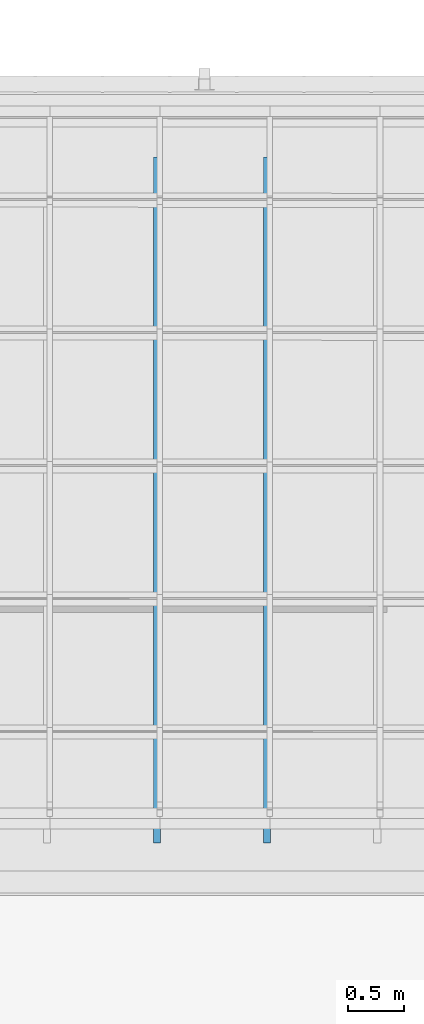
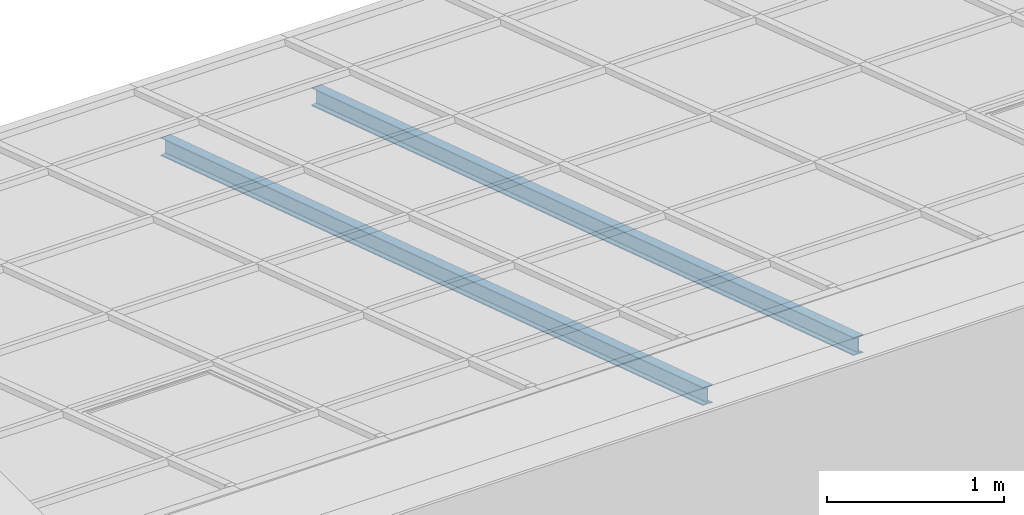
# One storey, part 3 of 47: 2 beams.
"""IFC2X3 building model written with IfcOpenShell, lengths in millimetres."""

from ifc_helpers import new_model, entity, si_unit, converted_unit, derived_unit, money_unit, point, direction, frame, frame_2d, origin_with_axes, place, context, subcontext, project, spatial, polyline, circle_curve, parameter, trimmed, segment, composite_curve, outline, extrude, clip, halfspace, material, type_object, element, save


model = new_model("IFC2X3")

# Units and contexts
model_context = context("Model", 3, precision=1e-05, world=origin_with_axes(), true_north=direction((0.0, 1.0)))
body_context = subcontext(model_context, "Body", "Model", "MODEL_VIEW")
ifc_project = project(units=[si_unit("LENGTHUNIT", "METRE", prefix="MILLI"), si_unit("AREAUNIT", "SQUARE_METRE"), si_unit("VOLUMEUNIT", "CUBIC_METRE"), converted_unit("PLANEANGLEUNIT", "DEGREE", entity("IfcPlaneAngleMeasure", 0.0174532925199), si_unit("PLANEANGLEUNIT", "RADIAN"), dimensions=[0, 0, 0, 0, 0, 0, 0]), si_unit("SOLIDANGLEUNIT", "STERADIAN"), money_unit("EUR"), converted_unit("TIMEUNIT", "Year", entity("IfcTimeMeasure", 31556926.0), si_unit("TIMEUNIT", "SECOND"), dimensions=[0, 0, 1, 0, 0, 0, 0]), si_unit("MASSUNIT", "GRAM", prefix="KILO"), si_unit("THERMODYNAMICTEMPERATUREUNIT", "DEGREE_CELSIUS"), si_unit("LUMINOUSINTENSITYUNIT", "LUMEN"), si_unit("ENERGYUNIT", "JOULE", prefix="MEGA"), derived_unit("THERMALCONDUCTANCEUNIT", [(si_unit("POWERUNIT", "WATT"), 1), (si_unit("LENGTHUNIT", "METRE"), -1), (si_unit("THERMODYNAMICTEMPERATUREUNIT", "KELVIN"), -1)]), derived_unit("SPECIFICHEATCAPACITYUNIT", [(si_unit("ENERGYUNIT", "JOULE"), 1), (si_unit("MASSUNIT", "GRAM", prefix="KILO"), -1), (si_unit("THERMODYNAMICTEMPERATUREUNIT", "KELVIN"), -1)]), derived_unit("MASSDENSITYUNIT", [(si_unit("MASSUNIT", "GRAM", prefix="KILO"), 1), (si_unit("VOLUMEUNIT", "CUBIC_METRE"), -1)])], contexts=[model_context])

# Site, building, storey
site_placement = place(None, origin_with_axes())
site = spatial("IfcSite", under=ifc_project, at=site_placement, Name="Site", CompositionType="ELEMENT")
building_placement = place(site_placement, origin_with_axes())
building = spatial("IfcBuilding", under=site, at=building_placement, Name="Building", CompositionType="ELEMENT")
storey_placement = place(building_placement, frame((0.0, 0.0, 6000.0), z_axis=(0.0, 0.0, 1.0), x_axis=(1.0, 0.0, 0.0)))
storey = spatial("IfcBuildingStorey", under=building, at=storey_placement, Name="KATUSEPLAAN", CompositionType="ELEMENT", Elevation=6000.0)

# Beams
ifc_material = material(Name="Teras (1)")
beam_type = type_object("IfcBeamType", Name="IPE 120", PredefinedType="NOTDEFINED")
beam_1_placement = place(storey_placement, frame((68176.0817676, 46947.8063411, 699.678842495), z_axis=(0.0, 0.0, 1.0), x_axis=(-1.0, 0.0, 0.0)))
element("IfcBeam", 1, at=beam_1_placement, inside=storey, type_object=beam_type, material=ifc_material, Name="I Joist - Steel", ObjectType="I Joist - Steel 64 x 120", context=body_context, shape_type="Clipping", body=[
    clip(clip(extrude(outline(composite_curve([segment(polyline([(32.0018479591, -120.000212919), (32.0018479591, -117.505222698)]), True, "CONTINUOUS"), segment(trimmed(circle_curve(frame_2d((27.3321376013, -117.498683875), x_axis=(0.999999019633, -0.00140026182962)), 4.66971493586), [point((32.0018479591, -117.505222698)), parameter(0.0)], [point((31.7461003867, -115.974488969)), parameter(19.1306436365)], True, "CARTESIAN"), True, "CONTINUOUS"), segment(trimmed(circle_curve(frame_2d((27.8471066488, -117.309508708), x_axis=(0.94607823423, 0.323938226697)), 4.12121703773), [point((31.7461003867, -115.974488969)), parameter(0.0)], [point((31.017792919, -114.676795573)), parameter(20.802576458)], True, "CARTESIAN"), True, "CONTINUOUS"), segment(trimmed(circle_curve(frame_2d((28.4090653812, -116.837495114), x_axis=(0.770140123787, 0.637874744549)), 3.38734141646), [point((31.017792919, -114.676795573)), parameter(0.0)], [point((29.9278037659, -113.809704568)), parameter(23.7281511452)], True, "CARTESIAN"), True, "CONTINUOUS"), segment(trimmed(circle_curve(frame_2d((28.6333599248, -116.404648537), x_axis=(0.446378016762, 0.89484449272)), 2.89988259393), [point((29.9278037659, -113.809704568)), parameter(0.0)], [point((29.1110817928, -113.544386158)), parameter(17.0295027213)], True, "CARTESIAN"), True, "CONTINUOUS"), segment(polyline([(29.1110817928, -113.544386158), (5.24260801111, -109.566039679)]), True, "CONTINUOUS"), segment(trimmed(circle_curve(frame_2d((5.72032987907, -106.7057773), x_axis=(-0.446378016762, -0.89484449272)), 2.89988259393), [point((5.24260801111, -109.566039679)), parameter(17.0295027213)], [point((4.42588603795, -109.300721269)), parameter(0.0)], False, "CARTESIAN"), True, "CONTINUOUS"), segment(trimmed(circle_curve(frame_2d((5.94462442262, -106.272930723), x_axis=(-0.770140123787, -0.637874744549)), 3.38734141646), [point((4.42588603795, -109.300721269)), parameter(23.7281511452)], [point((3.33589688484, -108.433630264)), parameter(0.0)], False, "CARTESIAN"), True, "CONTINUOUS"), segment(trimmed(circle_curve(frame_2d((6.5065831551, -105.800917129), x_axis=(-0.94607823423, -0.323938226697)), 4.12121703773), [point((3.33589688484, -108.433630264)), parameter(20.802576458)], [point((2.60758941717, -107.135936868)), parameter(0.0)], False, "CARTESIAN"), True, "CONTINUOUS"), segment(trimmed(circle_curve(frame_2d((7.02155220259, -105.611741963), x_axis=(-0.999999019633, 0.00140026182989)), 4.66971493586), [point((2.60758941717, -107.135936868)), parameter(19.1306436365)], [point((2.35184184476, -105.605203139)), parameter(0.0)], False, "CARTESIAN"), True, "CONTINUOUS"), segment(polyline([(2.35184184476, -105.605203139), (2.35184184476, -14.3950097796)]), True, "CONTINUOUS"), segment(trimmed(circle_curve(frame_2d((7.02155220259, -14.3884709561), x_axis=(-0.945231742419, 0.326399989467)), 4.66971493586), [point((2.35184184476, -14.3950097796)), parameter(19.1306436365)], [point((2.60758941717, -12.8642760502)), parameter(0.0)], False, "CARTESIAN"), True, "CONTINUOUS"), segment(trimmed(circle_curve(frame_2d((6.5065831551, -14.1992957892), x_axis=(-0.769356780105, 0.638819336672)), 4.12121703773), [point((2.60758941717, -12.8642760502)), parameter(20.802576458)], [point((3.33589688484, -11.5665826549)), parameter(0.0)], False, "CARTESIAN"), True, "CONTINUOUS"), segment(trimmed(circle_curve(frame_2d((5.94462442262, -13.7272821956), x_axis=(-0.44835704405, 0.893854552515)), 3.38734141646), [point((3.33589688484, -11.5665826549)), parameter(23.7281511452)], [point((4.42588603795, -10.6994916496)), parameter(0.0)], False, "CARTESIAN"), True, "CONTINUOUS"), segment(trimmed(circle_curve(frame_2d((5.72032987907, -13.2944356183), x_axis=(-0.164738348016, 0.986337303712)), 2.89988259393), [point((4.42588603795, -10.6994916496)), parameter(17.0295027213)], [point((5.24260801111, -10.4341732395)), parameter(0.0)], False, "CARTESIAN"), True, "CONTINUOUS"), segment(polyline([(5.24260801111, -10.4341732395), (29.1110817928, -6.45582676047)]), True, "CONTINUOUS"), segment(trimmed(circle_curve(frame_2d((28.6333599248, -3.59556438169), x_axis=(0.164738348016, -0.986337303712)), 2.89988259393), [point((29.1110817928, -6.45582676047)), parameter(0.0)], [point((29.9278037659, -6.19050835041)), parameter(17.0295027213)], True, "CARTESIAN"), True, "CONTINUOUS"), segment(trimmed(circle_curve(frame_2d((28.4090653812, -3.16271780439), x_axis=(0.44835704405, -0.893854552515)), 3.38734141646), [point((29.9278037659, -6.19050835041)), parameter(0.0)], [point((31.017792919, -5.32341734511)), parameter(23.7281511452)], True, "CARTESIAN"), True, "CONTINUOUS"), segment(trimmed(circle_curve(frame_2d((27.8471066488, -2.69070421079), x_axis=(0.769356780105, -0.638819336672)), 4.12121703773), [point((31.017792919, -5.32341734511)), parameter(0.0)], [point((31.7461003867, -4.02572394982)), parameter(20.802576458)], True, "CARTESIAN"), True, "CONTINUOUS"), segment(trimmed(circle_curve(frame_2d((27.3321376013, -2.50152904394), x_axis=(0.945231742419, -0.326399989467)), 4.66971493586), [point((31.7461003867, -4.02572394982)), parameter(0.0)], [point((32.0018479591, -2.49499022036)), parameter(19.1306436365)], True, "CARTESIAN"), True, "CONTINUOUS"), segment(polyline([(32.0018479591, -2.49499022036), (32.0018479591, 0.0), (-32.0018479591, 0.0), (-32.0018479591, -2.49499022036)]), True, "CONTINUOUS"), segment(trimmed(circle_curve(frame_2d((-27.3321376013, -2.50152904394), x_axis=(-0.999999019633, 0.00140026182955)), 4.66971493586), [point((-32.0018479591, -2.49499022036)), parameter(0.0)], [point((-31.7461003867, -4.02572394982)), parameter(19.1306436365)], True, "CARTESIAN"), True, "CONTINUOUS"), segment(trimmed(circle_curve(frame_2d((-27.8471066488, -2.69070421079), x_axis=(-0.94607823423, -0.323938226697)), 4.12121703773), [point((-31.7461003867, -4.02572394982)), parameter(0.0)], [point((-31.017792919, -5.32341734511)), parameter(20.802576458)], True, "CARTESIAN"), True, "CONTINUOUS"), segment(trimmed(circle_curve(frame_2d((-28.4090653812, -3.16271780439), x_axis=(-0.770140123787, -0.637874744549)), 3.38734141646), [point((-31.017792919, -5.32341734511)), parameter(0.0)], [point((-29.9278037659, -6.19050835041)), parameter(23.7281511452)], True, "CARTESIAN"), True, "CONTINUOUS"), segment(trimmed(circle_curve(frame_2d((-28.6333599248, -3.59556438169), x_axis=(-0.446378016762, -0.89484449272)), 2.89988259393), [point((-29.9278037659, -6.19050835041)), parameter(0.0)], [point((-29.1110817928, -6.45582676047)), parameter(17.0295027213)], True, "CARTESIAN"), True, "CONTINUOUS"), segment(polyline([(-29.1110817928, -6.45582676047), (-5.24260801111, -10.4341732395)]), True, "CONTINUOUS"), segment(trimmed(circle_curve(frame_2d((-5.72032987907, -13.2944356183), x_axis=(0.446378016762, 0.89484449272)), 2.89988259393), [point((-5.24260801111, -10.4341732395)), parameter(17.0295027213)], [point((-4.42588603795, -10.6994916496)), parameter(0.0)], False, "CARTESIAN"), True, "CONTINUOUS"), segment(trimmed(circle_curve(frame_2d((-5.94462442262, -13.7272821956), x_axis=(0.770140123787, 0.637874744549)), 3.38734141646), [point((-4.42588603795, -10.6994916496)), parameter(23.7281511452)], [point((-3.33589688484, -11.5665826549)), parameter(0.0)], False, "CARTESIAN"), True, "CONTINUOUS"), segment(trimmed(circle_curve(frame_2d((-6.5065831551, -14.1992957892), x_axis=(0.94607823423, 0.323938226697)), 4.12121703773), [point((-3.33589688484, -11.5665826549)), parameter(20.802576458)], [point((-2.60758941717, -12.8642760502)), parameter(0.0)], False, "CARTESIAN"), True, "CONTINUOUS"), segment(trimmed(circle_curve(frame_2d((-7.02155220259, -14.3884709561), x_axis=(0.999999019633, -0.00140026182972)), 4.66971493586), [point((-2.60758941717, -12.8642760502)), parameter(19.1306436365)], [point((-2.35184184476, -14.3950097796)), parameter(0.0)], False, "CARTESIAN"), True, "CONTINUOUS"), segment(polyline([(-2.35184184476, -14.3950097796), (-2.35184184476, -105.605203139)]), True, "CONTINUOUS"), segment(trimmed(circle_curve(frame_2d((-7.02155220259, -105.611741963), x_axis=(0.945231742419, -0.326399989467)), 4.66971493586), [point((-2.35184184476, -105.605203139)), parameter(19.1306436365)], [point((-2.60758941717, -107.135936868)), parameter(0.0)], False, "CARTESIAN"), True, "CONTINUOUS"), segment(trimmed(circle_curve(frame_2d((-6.5065831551, -105.800917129), x_axis=(0.769356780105, -0.638819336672)), 4.12121703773), [point((-2.60758941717, -107.135936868)), parameter(20.802576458)], [point((-3.33589688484, -108.433630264)), parameter(0.0)], False, "CARTESIAN"), True, "CONTINUOUS"), segment(trimmed(circle_curve(frame_2d((-5.94462442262, -106.272930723), x_axis=(0.44835704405, -0.893854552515)), 3.38734141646), [point((-3.33589688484, -108.433630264)), parameter(23.7281511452)], [point((-4.42588603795, -109.300721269)), parameter(0.0)], False, "CARTESIAN"), True, "CONTINUOUS"), segment(trimmed(circle_curve(frame_2d((-5.72032987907, -106.7057773), x_axis=(0.164738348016, -0.986337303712)), 2.89988259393), [point((-4.42588603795, -109.300721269)), parameter(17.0295027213)], [point((-5.24260801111, -109.566039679)), parameter(0.0)], False, "CARTESIAN"), True, "CONTINUOUS"), segment(polyline([(-5.24260801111, -109.566039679), (-29.1110817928, -113.544386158)]), True, "CONTINUOUS"), segment(trimmed(circle_curve(frame_2d((-28.6333599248, -116.404648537), x_axis=(-0.164738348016, 0.986337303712)), 2.89988259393), [point((-29.1110817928, -113.544386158)), parameter(0.0)], [point((-29.9278037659, -113.809704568)), parameter(17.0295027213)], True, "CARTESIAN"), True, "CONTINUOUS"), segment(trimmed(circle_curve(frame_2d((-28.4090653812, -116.837495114), x_axis=(-0.44835704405, 0.893854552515)), 3.38734141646), [point((-29.9278037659, -113.809704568)), parameter(0.0)], [point((-31.017792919, -114.676795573)), parameter(23.7281511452)], True, "CARTESIAN"), True, "CONTINUOUS"), segment(trimmed(circle_curve(frame_2d((-27.8471066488, -117.309508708), x_axis=(-0.769356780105, 0.638819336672)), 4.12121703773), [point((-31.017792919, -114.676795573)), parameter(0.0)], [point((-31.7461003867, -115.974488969)), parameter(20.802576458)], True, "CARTESIAN"), True, "CONTINUOUS"), segment(trimmed(circle_curve(frame_2d((-27.3321376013, -117.498683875), x_axis=(-0.945231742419, 0.326399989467)), 4.66971493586), [point((-31.7461003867, -115.974488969)), parameter(0.0)], [point((-32.0018479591, -117.505222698)), parameter(19.1306436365)], True, "CARTESIAN"), True, "CONTINUOUS"), segment(polyline([(-32.0018479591, -117.505222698), (-32.0018479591, -120.000212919), (32.0018479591, -120.000212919)]), True, "CONTINUOUS")], self_intersect=False)), frame((0.0, 6177.44201598, 2007.17258333), z_axis=(0.0, 0.951056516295, 0.309016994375), x_axis=(-1.0, 0.0, 0.0)), (0.0, 0.0, -1.0), 6550.487721), halfspace(frame((0.0, 6125.0, 0.0), z_axis=(0.0, -1.0, 0.0), x_axis=(0.0, 0.0, -1.0)), True)), halfspace(frame((0.0, 0.0, 0.0), z_axis=(0.0, 1.0, 0.0), x_axis=(0.0, 0.0, 1.0)), True)),
])
beam_2_placement = place(storey_placement, frame((69159.0817676, 46947.8063411, 699.678842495), z_axis=(0.0, 0.0, 1.0), x_axis=(-1.0, 0.0, 0.0)))
element("IfcBeam", 2, at=beam_2_placement, inside=storey, type_object=beam_type, material=ifc_material, Name="I Joist - Steel", ObjectType="I Joist - Steel 64 x 120", context=body_context, shape_type="Clipping", body=[
    clip(clip(extrude(outline(composite_curve([segment(polyline([(32.0018479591, -120.000212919), (32.0018479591, -117.505222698)]), True, "CONTINUOUS"), segment(trimmed(circle_curve(frame_2d((27.3321376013, -117.498683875), x_axis=(0.999999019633, -0.00140026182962)), 4.66971493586), [point((32.0018479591, -117.505222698)), parameter(0.0)], [point((31.7461003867, -115.974488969)), parameter(19.1306436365)], True, "CARTESIAN"), True, "CONTINUOUS"), segment(trimmed(circle_curve(frame_2d((27.8471066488, -117.309508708), x_axis=(0.94607823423, 0.323938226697)), 4.12121703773), [point((31.7461003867, -115.974488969)), parameter(0.0)], [point((31.017792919, -114.676795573)), parameter(20.802576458)], True, "CARTESIAN"), True, "CONTINUOUS"), segment(trimmed(circle_curve(frame_2d((28.4090653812, -116.837495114), x_axis=(0.770140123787, 0.637874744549)), 3.38734141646), [point((31.017792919, -114.676795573)), parameter(0.0)], [point((29.9278037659, -113.809704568)), parameter(23.7281511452)], True, "CARTESIAN"), True, "CONTINUOUS"), segment(trimmed(circle_curve(frame_2d((28.6333599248, -116.404648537), x_axis=(0.446378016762, 0.89484449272)), 2.89988259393), [point((29.9278037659, -113.809704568)), parameter(0.0)], [point((29.1110817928, -113.544386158)), parameter(17.0295027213)], True, "CARTESIAN"), True, "CONTINUOUS"), segment(polyline([(29.1110817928, -113.544386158), (5.24260801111, -109.566039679)]), True, "CONTINUOUS"), segment(trimmed(circle_curve(frame_2d((5.72032987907, -106.7057773), x_axis=(-0.446378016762, -0.89484449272)), 2.89988259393), [point((5.24260801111, -109.566039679)), parameter(17.0295027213)], [point((4.42588603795, -109.300721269)), parameter(0.0)], False, "CARTESIAN"), True, "CONTINUOUS"), segment(trimmed(circle_curve(frame_2d((5.94462442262, -106.272930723), x_axis=(-0.770140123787, -0.637874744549)), 3.38734141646), [point((4.42588603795, -109.300721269)), parameter(23.7281511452)], [point((3.33589688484, -108.433630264)), parameter(0.0)], False, "CARTESIAN"), True, "CONTINUOUS"), segment(trimmed(circle_curve(frame_2d((6.5065831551, -105.800917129), x_axis=(-0.94607823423, -0.323938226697)), 4.12121703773), [point((3.33589688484, -108.433630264)), parameter(20.802576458)], [point((2.60758941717, -107.135936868)), parameter(0.0)], False, "CARTESIAN"), True, "CONTINUOUS"), segment(trimmed(circle_curve(frame_2d((7.02155220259, -105.611741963), x_axis=(-0.999999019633, 0.00140026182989)), 4.66971493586), [point((2.60758941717, -107.135936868)), parameter(19.1306436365)], [point((2.35184184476, -105.605203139)), parameter(0.0)], False, "CARTESIAN"), True, "CONTINUOUS"), segment(polyline([(2.35184184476, -105.605203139), (2.35184184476, -14.3950097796)]), True, "CONTINUOUS"), segment(trimmed(circle_curve(frame_2d((7.02155220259, -14.3884709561), x_axis=(-0.945231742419, 0.326399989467)), 4.66971493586), [point((2.35184184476, -14.3950097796)), parameter(19.1306436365)], [point((2.60758941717, -12.8642760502)), parameter(0.0)], False, "CARTESIAN"), True, "CONTINUOUS"), segment(trimmed(circle_curve(frame_2d((6.5065831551, -14.1992957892), x_axis=(-0.769356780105, 0.638819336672)), 4.12121703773), [point((2.60758941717, -12.8642760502)), parameter(20.802576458)], [point((3.33589688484, -11.5665826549)), parameter(0.0)], False, "CARTESIAN"), True, "CONTINUOUS"), segment(trimmed(circle_curve(frame_2d((5.94462442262, -13.7272821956), x_axis=(-0.44835704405, 0.893854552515)), 3.38734141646), [point((3.33589688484, -11.5665826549)), parameter(23.7281511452)], [point((4.42588603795, -10.6994916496)), parameter(0.0)], False, "CARTESIAN"), True, "CONTINUOUS"), segment(trimmed(circle_curve(frame_2d((5.72032987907, -13.2944356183), x_axis=(-0.164738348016, 0.986337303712)), 2.89988259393), [point((4.42588603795, -10.6994916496)), parameter(17.0295027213)], [point((5.24260801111, -10.4341732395)), parameter(0.0)], False, "CARTESIAN"), True, "CONTINUOUS"), segment(polyline([(5.24260801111, -10.4341732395), (29.1110817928, -6.45582676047)]), True, "CONTINUOUS"), segment(trimmed(circle_curve(frame_2d((28.6333599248, -3.59556438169), x_axis=(0.164738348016, -0.986337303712)), 2.89988259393), [point((29.1110817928, -6.45582676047)), parameter(0.0)], [point((29.9278037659, -6.19050835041)), parameter(17.0295027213)], True, "CARTESIAN"), True, "CONTINUOUS"), segment(trimmed(circle_curve(frame_2d((28.4090653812, -3.16271780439), x_axis=(0.44835704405, -0.893854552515)), 3.38734141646), [point((29.9278037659, -6.19050835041)), parameter(0.0)], [point((31.017792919, -5.32341734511)), parameter(23.7281511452)], True, "CARTESIAN"), True, "CONTINUOUS"), segment(trimmed(circle_curve(frame_2d((27.8471066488, -2.69070421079), x_axis=(0.769356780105, -0.638819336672)), 4.12121703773), [point((31.017792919, -5.32341734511)), parameter(0.0)], [point((31.7461003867, -4.02572394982)), parameter(20.802576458)], True, "CARTESIAN"), True, "CONTINUOUS"), segment(trimmed(circle_curve(frame_2d((27.3321376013, -2.50152904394), x_axis=(0.945231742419, -0.326399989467)), 4.66971493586), [point((31.7461003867, -4.02572394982)), parameter(0.0)], [point((32.0018479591, -2.49499022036)), parameter(19.1306436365)], True, "CARTESIAN"), True, "CONTINUOUS"), segment(polyline([(32.0018479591, -2.49499022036), (32.0018479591, 0.0), (-32.0018479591, 0.0), (-32.0018479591, -2.49499022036)]), True, "CONTINUOUS"), segment(trimmed(circle_curve(frame_2d((-27.3321376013, -2.50152904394), x_axis=(-0.999999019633, 0.00140026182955)), 4.66971493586), [point((-32.0018479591, -2.49499022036)), parameter(0.0)], [point((-31.7461003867, -4.02572394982)), parameter(19.1306436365)], True, "CARTESIAN"), True, "CONTINUOUS"), segment(trimmed(circle_curve(frame_2d((-27.8471066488, -2.69070421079), x_axis=(-0.94607823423, -0.323938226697)), 4.12121703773), [point((-31.7461003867, -4.02572394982)), parameter(0.0)], [point((-31.017792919, -5.32341734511)), parameter(20.802576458)], True, "CARTESIAN"), True, "CONTINUOUS"), segment(trimmed(circle_curve(frame_2d((-28.4090653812, -3.16271780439), x_axis=(-0.770140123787, -0.637874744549)), 3.38734141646), [point((-31.017792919, -5.32341734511)), parameter(0.0)], [point((-29.9278037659, -6.19050835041)), parameter(23.7281511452)], True, "CARTESIAN"), True, "CONTINUOUS"), segment(trimmed(circle_curve(frame_2d((-28.6333599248, -3.59556438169), x_axis=(-0.446378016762, -0.89484449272)), 2.89988259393), [point((-29.9278037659, -6.19050835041)), parameter(0.0)], [point((-29.1110817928, -6.45582676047)), parameter(17.0295027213)], True, "CARTESIAN"), True, "CONTINUOUS"), segment(polyline([(-29.1110817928, -6.45582676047), (-5.24260801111, -10.4341732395)]), True, "CONTINUOUS"), segment(trimmed(circle_curve(frame_2d((-5.72032987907, -13.2944356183), x_axis=(0.446378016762, 0.89484449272)), 2.89988259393), [point((-5.24260801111, -10.4341732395)), parameter(17.0295027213)], [point((-4.42588603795, -10.6994916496)), parameter(0.0)], False, "CARTESIAN"), True, "CONTINUOUS"), segment(trimmed(circle_curve(frame_2d((-5.94462442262, -13.7272821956), x_axis=(0.770140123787, 0.637874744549)), 3.38734141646), [point((-4.42588603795, -10.6994916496)), parameter(23.7281511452)], [point((-3.33589688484, -11.5665826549)), parameter(0.0)], False, "CARTESIAN"), True, "CONTINUOUS"), segment(trimmed(circle_curve(frame_2d((-6.5065831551, -14.1992957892), x_axis=(0.94607823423, 0.323938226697)), 4.12121703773), [point((-3.33589688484, -11.5665826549)), parameter(20.802576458)], [point((-2.60758941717, -12.8642760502)), parameter(0.0)], False, "CARTESIAN"), True, "CONTINUOUS"), segment(trimmed(circle_curve(frame_2d((-7.02155220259, -14.3884709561), x_axis=(0.999999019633, -0.00140026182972)), 4.66971493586), [point((-2.60758941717, -12.8642760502)), parameter(19.1306436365)], [point((-2.35184184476, -14.3950097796)), parameter(0.0)], False, "CARTESIAN"), True, "CONTINUOUS"), segment(polyline([(-2.35184184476, -14.3950097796), (-2.35184184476, -105.605203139)]), True, "CONTINUOUS"), segment(trimmed(circle_curve(frame_2d((-7.02155220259, -105.611741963), x_axis=(0.945231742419, -0.326399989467)), 4.66971493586), [point((-2.35184184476, -105.605203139)), parameter(19.1306436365)], [point((-2.60758941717, -107.135936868)), parameter(0.0)], False, "CARTESIAN"), True, "CONTINUOUS"), segment(trimmed(circle_curve(frame_2d((-6.5065831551, -105.800917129), x_axis=(0.769356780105, -0.638819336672)), 4.12121703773), [point((-2.60758941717, -107.135936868)), parameter(20.802576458)], [point((-3.33589688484, -108.433630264)), parameter(0.0)], False, "CARTESIAN"), True, "CONTINUOUS"), segment(trimmed(circle_curve(frame_2d((-5.94462442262, -106.272930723), x_axis=(0.44835704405, -0.893854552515)), 3.38734141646), [point((-3.33589688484, -108.433630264)), parameter(23.7281511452)], [point((-4.42588603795, -109.300721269)), parameter(0.0)], False, "CARTESIAN"), True, "CONTINUOUS"), segment(trimmed(circle_curve(frame_2d((-5.72032987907, -106.7057773), x_axis=(0.164738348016, -0.986337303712)), 2.89988259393), [point((-4.42588603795, -109.300721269)), parameter(17.0295027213)], [point((-5.24260801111, -109.566039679)), parameter(0.0)], False, "CARTESIAN"), True, "CONTINUOUS"), segment(polyline([(-5.24260801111, -109.566039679), (-29.1110817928, -113.544386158)]), True, "CONTINUOUS"), segment(trimmed(circle_curve(frame_2d((-28.6333599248, -116.404648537), x_axis=(-0.164738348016, 0.986337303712)), 2.89988259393), [point((-29.1110817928, -113.544386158)), parameter(0.0)], [point((-29.9278037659, -113.809704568)), parameter(17.0295027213)], True, "CARTESIAN"), True, "CONTINUOUS"), segment(trimmed(circle_curve(frame_2d((-28.4090653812, -116.837495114), x_axis=(-0.44835704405, 0.893854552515)), 3.38734141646), [point((-29.9278037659, -113.809704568)), parameter(0.0)], [point((-31.017792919, -114.676795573)), parameter(23.7281511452)], True, "CARTESIAN"), True, "CONTINUOUS"), segment(trimmed(circle_curve(frame_2d((-27.8471066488, -117.309508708), x_axis=(-0.769356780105, 0.638819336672)), 4.12121703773), [point((-31.017792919, -114.676795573)), parameter(0.0)], [point((-31.7461003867, -115.974488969)), parameter(20.802576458)], True, "CARTESIAN"), True, "CONTINUOUS"), segment(trimmed(circle_curve(frame_2d((-27.3321376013, -117.498683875), x_axis=(-0.945231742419, 0.326399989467)), 4.66971493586), [point((-31.7461003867, -115.974488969)), parameter(0.0)], [point((-32.0018479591, -117.505222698)), parameter(19.1306436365)], True, "CARTESIAN"), True, "CONTINUOUS"), segment(polyline([(-32.0018479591, -117.505222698), (-32.0018479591, -120.000212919), (32.0018479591, -120.000212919)]), True, "CONTINUOUS")], self_intersect=False)), frame((0.0, 6177.44201598, 2007.17258333), z_axis=(0.0, 0.951056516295, 0.309016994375), x_axis=(-1.0, 0.0, 0.0)), (0.0, 0.0, -1.0), 6550.487721), halfspace(frame((0.0, 6125.0, 0.0), z_axis=(0.0, -1.0, 0.0), x_axis=(0.0, 0.0, -1.0)), True)), halfspace(frame((0.0, 0.0, 0.0), z_axis=(0.0, 1.0, 0.0), x_axis=(0.0, 0.0, 1.0)), True)),
])

save(model, "model.ifc")
